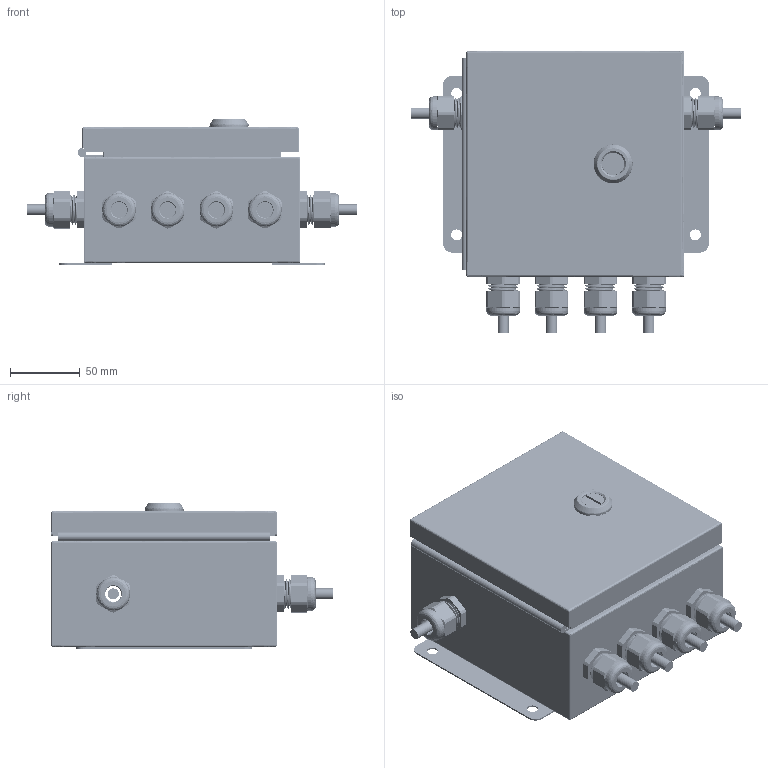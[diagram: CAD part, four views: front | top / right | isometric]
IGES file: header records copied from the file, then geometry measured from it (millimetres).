
Start section: SolidWorks IGES file using analytic representation for surfaces
Global section: file name: C:\0_Work\SolidWorks\HI 6020 Series\HI6020JB-SS1-6.IGS; native system: SolidWorks 2020; preprocessor: SolidWorks 2020; author: vach01; date: 230928.131401; units: inch
Bounding box: 236.85 x 203.09 x 104.41 mm (x, y, z)
Surface area: 467075.1 mm2 (no closed solid volume)
Topology: 0 solids, 0 shells, 15943 faces, 147973 edges, 147855 vertices
Faces by surface type: bspline 12704, revolution 3239
